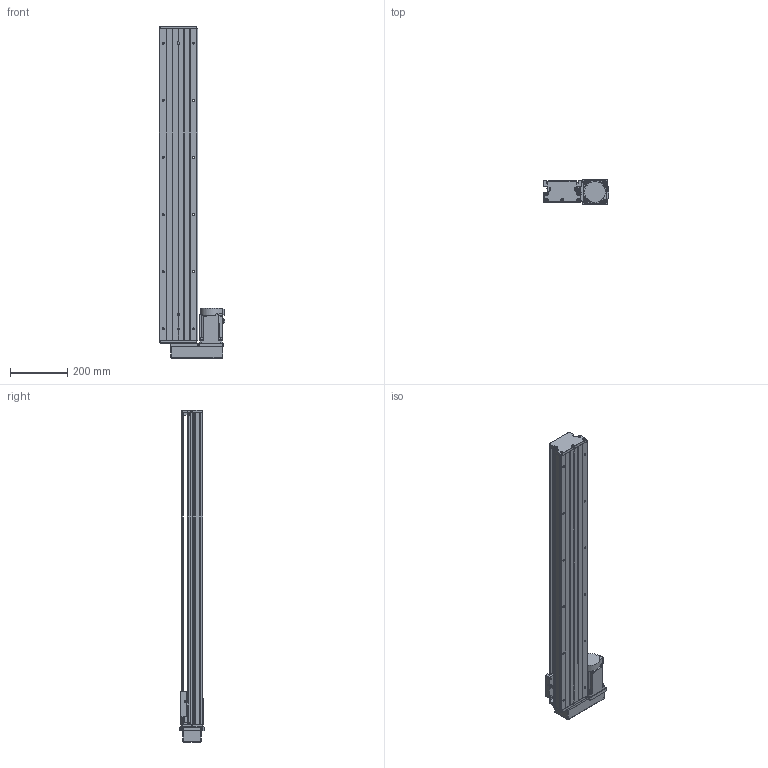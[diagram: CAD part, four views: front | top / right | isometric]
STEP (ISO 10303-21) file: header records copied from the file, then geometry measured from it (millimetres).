
FILE_DESCRIPTION (( 'STEP AP203' ), '1' );
FILE_NAME ('KTH130-950-BR-M75-C4.step', '2023-06-30T04:57:14', ( '微软用户' ), ( '微软中国' ), 'SwSTEP 2.0', 'SolidWorks 2020', '' );
FILE_SCHEMA (( 'CONFIG_CONTROL_DESIGN' ));
Length unit declared in the file: millimetre
Products named in the file (18): GB1155-6X6; GBT77-2000 M3×3; GBT70.1 M5℅16; す晦芛蹟隊 M3℅5; GBT 70.2-M3¡Á5_M3¡Á6; GBT 70.3-M3℅8; GTH14-001_950; CTHA60-017; hg-kn73j_-s100; KTH130-002_KTH130-002; EE_SX911P_R; CTHA86-015-3_CTHA86-015-4; KTH130-004; CTHA60-016; CTHA86-035; KTH130-005; GBT 70.1-M3℅5; KTH130-950-BR-M75-C4
Assembly tree (49 placements, depth 2):
  KTH130-950-BR-M75-C4
    GTH14-001_950
    KTH130-002_KTH130-002
    KTH130-004
    KTH130-005
    GB1155-6X6  x2
    GBT70.1 M5℅16  x10
    GBT 70.2-M3¡Á5_M3¡Á6  x4
    CTHA60-017  x3
    EE_SX911P_R  x3
    CTHA60-016  x2
    GBT 70.1-M3℅5  x6
    GBT77-2000 M3×3  x6
    す晦芛蹟隊 M3℅5  x2
    GBT 70.3-M3℅8  x4
    hg-kn73j_-s100
    CTHA86-015-3_CTHA86-015-4
    CTHA86-035
Bounding box: 230.3 x 87 x 1162 mm (x, y, z)
Volume: 7256596.4 mm3; surface area: 1040668.6 mm2
Topology: 52 solids, 52 shells, 2202 faces, 5340 edges, 3343 vertices
Faces by surface type: plane 1210, cylinder 638, cone 238, torus 100, sphere 16
Entity records: 40253 total; most frequent: CARTESIAN_POINT 6772, DIRECTION 6637, ORIENTED_EDGE 6184, EDGE_CURVE 3092, AXIS2_PLACEMENT_3D 2326, VECTOR 1985, LINE 1985, VERTEX_POINT 1977
